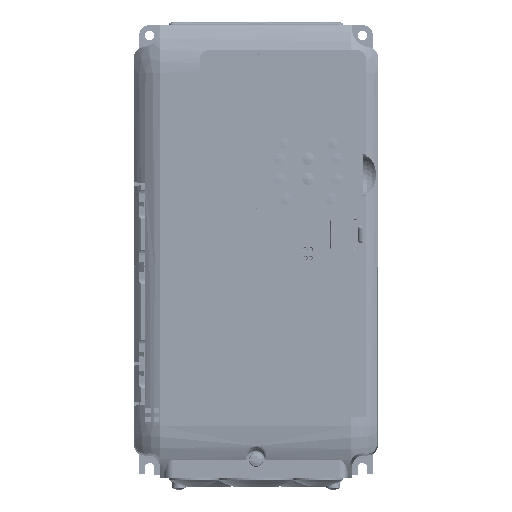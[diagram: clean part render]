
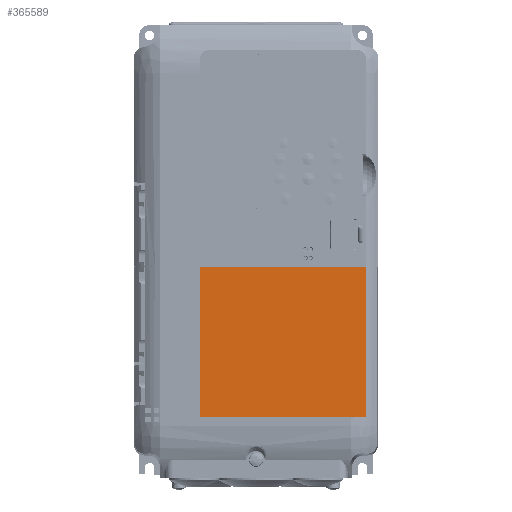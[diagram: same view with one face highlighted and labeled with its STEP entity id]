
A CAD part, top view. The second image highlights one B-rep face of the part: STEP entity #365589.
In plain terms, the highlighted planar face has unit normal (0, 0, 1).
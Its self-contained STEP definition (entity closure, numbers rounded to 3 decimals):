
#343502=DIRECTION('',(1.,0.,0.));
#343503=VECTOR('',#343502,72.);
#343504=CARTESIAN_POINT('',(-32.,-8.963,25.));
#343505=LINE('',#343504,#343503);
#343506=DIRECTION('',(1.,0.,0.));
#343507=VECTOR('',#343506,10.);
#343508=CARTESIAN_POINT('',(40.,-9.031,25.));
#343509=LINE('',#343508,#343507);
#343510=DIRECTION('',(0.,1.,0.));
#343511=VECTOR('',#343510,0.067);
#343512=CARTESIAN_POINT('',(50.,-9.031,25.));
#343513=LINE('',#343512,#343511);
#343514=DIRECTION('',(1.,0.,0.));
#343515=VECTOR('',#343514,13.);
#343516=CARTESIAN_POINT('',(50.,-8.963,25.));
#343517=LINE('',#343516,#343515);
#343518=DIRECTION('',(0.,1.,0.));
#343519=VECTOR('',#343518,86.037);
#343520=CARTESIAN_POINT('',(63.,-95.,25.));
#343521=LINE('',#343520,#343519);
#343522=DIRECTION('',(1.,0.,0.));
#343523=VECTOR('',#343522,95.);
#343524=CARTESIAN_POINT('',(-32.,-95.,25.));
#343525=LINE('',#343524,#343523);
#343534=DIRECTION('',(0.,-1.,0.));
#343535=VECTOR('',#343534,86.037);
#343536=CARTESIAN_POINT('',(-32.,-8.963,25.));
#343537=LINE('',#343536,#343535);
#343588=DIRECTION('',(0.,1.,0.));
#343589=VECTOR('',#343588,0.067);
#343590=CARTESIAN_POINT('',(40.,-9.031,25.));
#343591=LINE('',#343590,#343589);
#345705=CARTESIAN_POINT('',(-32.,-95.,25.));
#345706=CARTESIAN_POINT('',(63.,-95.,25.));
#345707=VERTEX_POINT('',#345705);
#345708=VERTEX_POINT('',#345706);
#347583=CARTESIAN_POINT('',(63.,-8.963,25.));
#347584=VERTEX_POINT('',#347583);
#347921=CARTESIAN_POINT('',(-32.,-8.963,25.));
#347922=VERTEX_POINT('',#347921);
#347923=CARTESIAN_POINT('',(40.,-8.963,25.));
#347924=VERTEX_POINT('',#347923);
#347925=CARTESIAN_POINT('',(40.,-9.031,25.));
#347926=CARTESIAN_POINT('',(50.,-9.031,25.));
#347927=VERTEX_POINT('',#347925);
#347928=VERTEX_POINT('',#347926);
#347929=CARTESIAN_POINT('',(50.,-8.963,25.));
#347930=VERTEX_POINT('',#347929);
#365570=CARTESIAN_POINT('',(0.,0.,25.));
#365571=DIRECTION('',(0.,0.,1.));
#365572=DIRECTION('',(1.,0.,0.));
#365573=AXIS2_PLACEMENT_3D('',#365570,#365571,#365572);
#365574=PLANE('',#365573);
#365576=ORIENTED_EDGE('',*,*,#365575,.F.);
#365577=ORIENTED_EDGE('',*,*,#350983,.T.);
#365579=ORIENTED_EDGE('',*,*,#365578,.F.);
#365580=ORIENTED_EDGE('',*,*,#365324,.T.);
#365581=ORIENTED_EDGE('',*,*,#365564,.T.);
#365582=ORIENTED_EDGE('',*,*,#350963,.T.);
#365584=ORIENTED_EDGE('',*,*,#365583,.F.);
#365586=ORIENTED_EDGE('',*,*,#365585,.F.);
#365587=EDGE_LOOP('',(#365576,#365577,#365579,#365580,#365581,#365582,#365584,
#365586));
#365588=FACE_OUTER_BOUND('',#365587,.F.);
#365589=ADVANCED_FACE('',(#365588),#365574,.T.);
#350963=EDGE_CURVE('',#347930,#347584,#343517,.T.);
#350983=EDGE_CURVE('',#347922,#347924,#343505,.T.);
#365324=EDGE_CURVE('',#347927,#347928,#343509,.T.);
#365564=EDGE_CURVE('',#347928,#347930,#343513,.T.);
#365575=EDGE_CURVE('',#347922,#345707,#343537,.T.);
#365578=EDGE_CURVE('',#347927,#347924,#343591,.T.);
#365583=EDGE_CURVE('',#345708,#347584,#343521,.T.);
#365585=EDGE_CURVE('',#345707,#345708,#343525,.T.);
